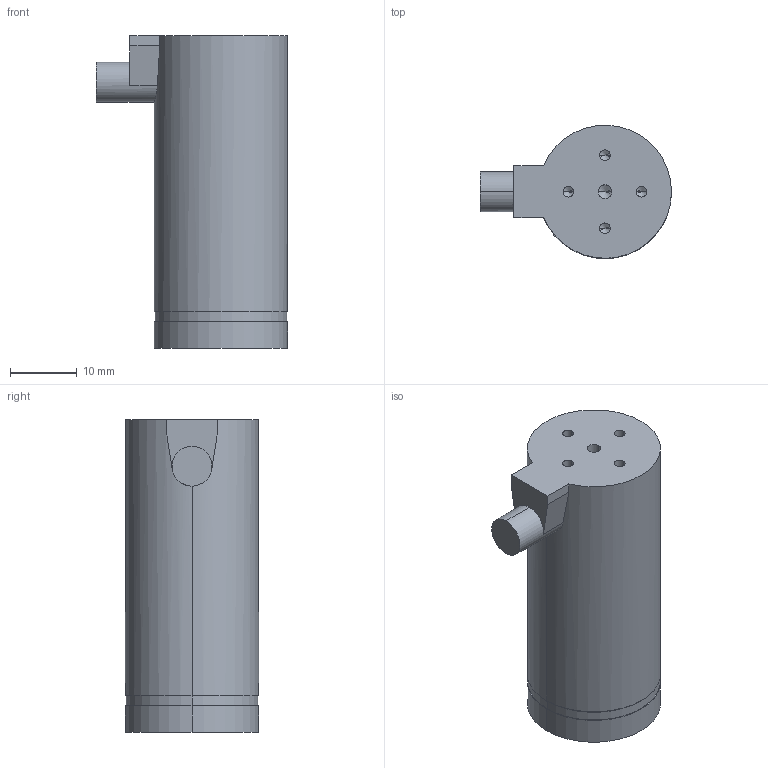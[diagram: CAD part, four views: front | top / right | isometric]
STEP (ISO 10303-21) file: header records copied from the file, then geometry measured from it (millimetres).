
FILE_DESCRIPTION (( 'STEP AP214' ), '1' );
FILE_NAME ('S38H.T4S47Y外形三维-24.11.28.STEP', '2024-11-28T06:04:30', ( '' ), ( '' ), 'SwSTEP 2.0', 'SolidWorks 2016', '' );
FILE_SCHEMA (( 'AUTOMOTIVE_DESIGN' ));
Length unit declared in the file: millimetre
Products named in the file (1): S38H.T4S47Y外形三维-24.11.28
Bounding box: 28.7 x 20 x 47 mm (x, y, z)
Volume: 15093.3 mm3; surface area: 3919.5 mm2
Topology: 1 solids, 1 shells, 41 faces, 97 edges, 56 vertices
Faces by surface type: cylinder 20, plane 11, cone 10
Entity records: 1283 total; most frequent: CARTESIAN_POINT 221, DIRECTION 207, ORIENTED_EDGE 174, EDGE_CURVE 87, AXIS2_PLACEMENT_3D 82, VERTEX_POINT 56, EDGE_LOOP 49, VECTOR 43
